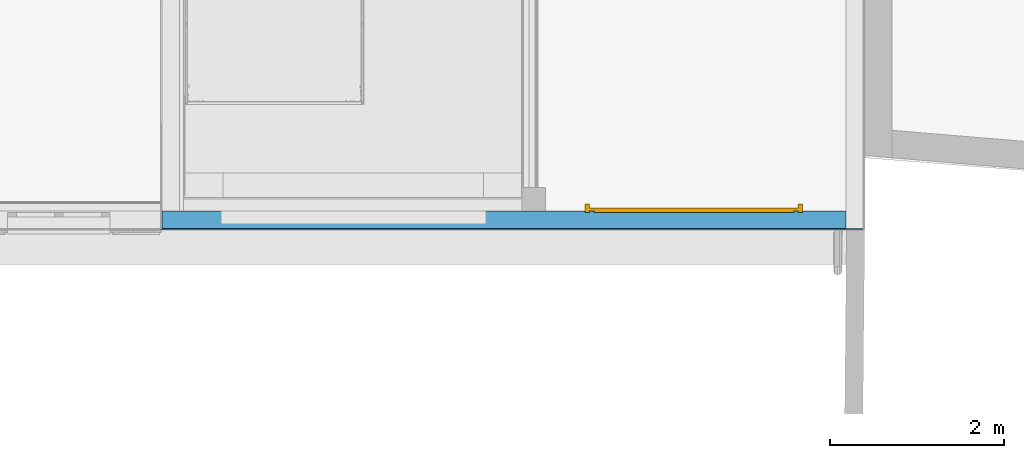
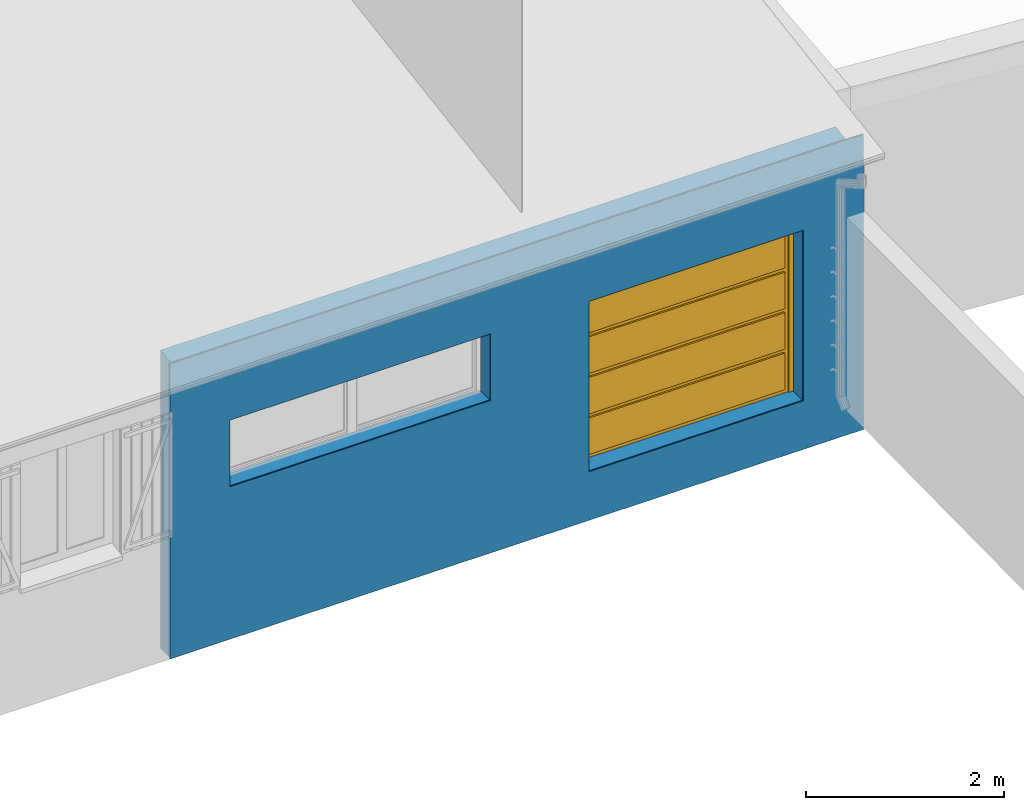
# One storey, part 10 of 24: 2 building element parts, 1 door, 2 openings, 1 element without a shape of its own.
"""IFC2X3 building model written with IfcOpenShell, lengths in metres."""

from ifc_helpers import new_model, entity, si_unit, converted_unit, derived_unit, money_unit, direction, frame, origin_with_axes, origin_2d_with_axis, place, context, subcontext, project, spatial, polyline, rectangle, outline, extrude, boolean, faceted_brep, material, type_object, element, fill, aggregate, save


model = new_model("IFC2X3")

# Units and contexts
model_context = context("Model", 3, precision=1e-05, world=origin_with_axes(), true_north=direction((0.0, 1.0)))
body_context = subcontext(model_context, "Body", "Model", "MODEL_VIEW")
ifc_project = project(units=[si_unit("LENGTHUNIT", "METRE"), si_unit("AREAUNIT", "SQUARE_METRE"), si_unit("VOLUMEUNIT", "CUBIC_METRE"), converted_unit("PLANEANGLEUNIT", "DEGREE", entity("IfcPlaneAngleMeasure", 0.0174532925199), si_unit("PLANEANGLEUNIT", "RADIAN"), dimensions=[0, 0, 0, 0, 0, 0, 0]), si_unit("SOLIDANGLEUNIT", "STERADIAN"), money_unit("CHF"), converted_unit("TIMEUNIT", "Year", entity("IfcTimeMeasure", 31556926.0), si_unit("TIMEUNIT", "SECOND"), dimensions=[0, 0, 1, 0, 0, 0, 0]), si_unit("MASSUNIT", "GRAM", prefix="KILO"), si_unit("THERMODYNAMICTEMPERATUREUNIT", "DEGREE_CELSIUS"), si_unit("LUMINOUSINTENSITYUNIT", "LUMEN"), si_unit("ENERGYUNIT", "JOULE", prefix="MEGA"), derived_unit("THERMALCONDUCTANCEUNIT", [(si_unit("POWERUNIT", "WATT"), 1), (si_unit("LENGTHUNIT", "METRE"), -1), (si_unit("THERMODYNAMICTEMPERATUREUNIT", "KELVIN"), -1)]), derived_unit("SPECIFICHEATCAPACITYUNIT", [(si_unit("ENERGYUNIT", "JOULE"), 1), (si_unit("MASSUNIT", "GRAM", prefix="KILO"), -1), (si_unit("THERMODYNAMICTEMPERATUREUNIT", "KELVIN"), -1)]), derived_unit("MASSDENSITYUNIT", [(si_unit("MASSUNIT", "GRAM", prefix="KILO"), 1), (si_unit("VOLUMEUNIT", "CUBIC_METRE"), -1)])], contexts=[model_context])

# Site, building, storey
site_placement = place(None, origin_with_axes())
site = spatial("IfcSite", under=ifc_project, at=site_placement, Name="Site", CompositionType="ELEMENT")
building_placement = place(site_placement, origin_with_axes())
building = spatial("IfcBuilding", under=site, at=building_placement, Name="Bâtiment", CompositionType="ELEMENT")
storey_placement = place(building_placement, origin_with_axes())
storey = spatial("IfcBuildingStorey", under=building, at=storey_placement, Name="Rez-de-chaussée", CompositionType="ELEMENT", Elevation=0.0)

# Door
door_style = type_object("IfcDoorStyle", Name="Porte garage basculante 24", ConstructionType="NOTDEFINED", OperationType="ROLLINGUP", ParameterTakesPrecedence=False, Sizeable=False)
wall_placement = place(storey_placement, frame((31.2721417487, 7.9529346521, -0.6), z_axis=(0.0, 0.0, 1.0), x_axis=(-1.0, 0.0, 0.0)))
opening_2_placement = place(wall_placement, frame((1.75148819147, 0.0, 0.6), z_axis=(0.0, 0.0, 1.0), x_axis=(1.0, 0.0, 0.0)))
door_placement = place(opening_2_placement, frame((1.25, 0.0, 0.0), z_axis=(0.0, 0.0, 1.0), x_axis=(-1.0, 0.0, 0.0)))
door = element("IfcDoor", 1, at=door_placement, inside=storey, type_object=door_style, Name="PORTE-005", ObjectType="DOOR", OverallHeight=2.1, OverallWidth=2.5, context=body_context, shape_type="Brep", body=[
    faceted_brep([(2.5, 0.085, 0.0), (2.5, -0.015, 0.0), (2.45, -0.015, 0.0), (2.45, 0.085, 0.0), (2.5, 0.085, 2.05), (2.5, -0.015, 2.05), (2.45, -0.015, 2.05), (2.45, 0.085, 2.05)], [[[0, 1, 2, 3]], [[4, 5, 1, 0]], [[1, 5, 6, 2]], [[3, 2, 6, 7]], [[0, 3, 7, 4]], [[7, 6, 5, 4]]]),
    faceted_brep([(0.0, 0.085, 0.0), (0.0, -0.015, 0.0), (0.0, -0.015, 2.05), (0.0, 0.085, 2.05), (0.05, 0.085, 0.0), (0.05, -0.015, 0.0), (0.05, -0.015, 2.05), (0.05, 0.085, 2.05)], [[[0, 1, 2, 3]], [[4, 5, 1, 0]], [[1, 5, 6, 2]], [[3, 2, 6, 7]], [[0, 3, 7, 4]], [[7, 6, 5, 4]]]),
    faceted_brep([(2.5, 0.085, 2.1), (2.5, -0.015, 2.1), (2.5, -0.015, 2.05), (2.5, 0.085, 2.05), (0.0, 0.085, 2.1), (0.0, -0.015, 2.1), (0.0, -0.015, 2.05), (0.05, -0.015, 2.05), (2.45, -0.015, 2.05), (2.45, 0.085, 2.05), (0.05, 0.085, 2.05), (0.0, 0.085, 2.05)], [[[0, 1, 2, 3]], [[4, 5, 1, 0]], [[1, 5, 6, 7, 8, 2]], [[3, 2, 8, 9]], [[0, 3, 9, 10, 11, 4]], [[11, 6, 5, 4]], [[10, 7, 6, 11]], [[9, 8, 7, 10]]]),
    faceted_brep([(2.45, 0.035, 0.0), (2.45, 0.005, 0.0), (0.05, 0.005, 0.0), (0.05, 0.035, 0.0), (2.45, 0.035, 2.05), (2.45, 0.005, 2.05), (0.05, 0.005, 2.05), (0.05, 0.035, 2.05)], [[[0, 1, 2, 3]], [[4, 5, 1, 0]], [[1, 5, 6, 2]], [[3, 2, 6, 7]], [[0, 3, 7, 4]], [[7, 6, 5, 4]]]),
    faceted_brep([(0.1, 0.005, 0.05), (0.1, 0.005, 0.5), (2.4, 0.005, 0.5), (2.4, 0.005, 0.05), (0.1, -0.015, 0.05), (0.1, -0.015, 0.5), (2.4, -0.015, 0.5), (2.4, -0.015, 0.05)], [[[0, 1, 2, 3]], [[0, 4, 5, 1]], [[1, 5, 6, 2]], [[2, 6, 7, 3]], [[3, 7, 4, 0]], [[7, 6, 5, 4]]]),
    faceted_brep([(0.1, 0.005, 0.55), (0.1, 0.005, 1.0), (2.4, 0.005, 1.0), (2.4, 0.005, 0.55), (0.1, -0.015, 0.55), (0.1, -0.015, 1.0), (2.4, -0.015, 1.0), (2.4, -0.015, 0.55)], [[[0, 1, 2, 3]], [[0, 4, 5, 1]], [[1, 5, 6, 2]], [[2, 6, 7, 3]], [[3, 7, 4, 0]], [[7, 6, 5, 4]]]),
    faceted_brep([(0.1, 0.005, 1.05), (0.1, 0.005, 1.5), (2.4, 0.005, 1.5), (2.4, 0.005, 1.05), (0.1, -0.015, 1.05), (0.1, -0.015, 1.5), (2.4, -0.015, 1.5), (2.4, -0.015, 1.05)], [[[0, 1, 2, 3]], [[0, 4, 5, 1]], [[1, 5, 6, 2]], [[2, 6, 7, 3]], [[3, 7, 4, 0]], [[7, 6, 5, 4]]]),
    faceted_brep([(0.1, 0.005, 1.55), (0.1, 0.005, 2.0), (2.4, 0.005, 2.0), (2.4, 0.005, 1.55), (0.1, -0.015, 1.55), (0.1, -0.015, 2.0), (2.4, -0.015, 2.0), (2.4, -0.015, 1.55)], [[[0, 1, 2, 3]], [[0, 4, 5, 1]], [[1, 5, 6, 2]], [[2, 6, 7, 3]], [[3, 7, 4, 0]], [[7, 6, 5, 4]]]),
])

# Wall, openings
wall_type = type_object("IfcWallType", Name="0.0 - Mur ext: revét ext + maçonnerie 215", PredefinedType="ELEMENTEDWALL")
wall = element("IfcWall", 2, at=wall_placement, inside=storey, type_object=wall_type, Name="MUR_EXT-002", ObjectType="ELEMENTEDWALL")
opening_1_placement = place(wall_placement, frame((5.6675, 0.0, 1.88), z_axis=(0.0, 0.0, 1.0), x_axis=(1.0, 0.0, 0.0)))
element("IfcOpeningElement", 3, at=opening_1_placement, cuts=wall, Name="FENETRE-002", context=body_context, shape_type="SweptSolid", body=[
    extrude(rectangle(XDim=3.04, YDim=0.82, at=origin_2d_with_axis()), frame((0.0, -0.215, 0.41), z_axis=(0.0, -1.0, 0.0), x_axis=(1.0, 0.0, 0.0)), (0.0, 0.0, -1.0), 0.645),
])
opening_2 = element("IfcOpeningElement", 4, at=opening_2_placement, cuts=wall, Name="PORTE-005", context=body_context, shape_type="SweptSolid", body=[
    extrude(rectangle(XDim=2.5, YDim=2.1, at=origin_2d_with_axis()), frame((0.0, 0.015, 1.05), z_axis=(0.0, 1.0, 0.0), x_axis=(1.0, 0.0, 0.0)), (0.0, 0.0, 1.0), 0.415),
    extrude(rectangle(XDim=2.5, YDim=2.1, at=origin_2d_with_axis()), frame((0.0, 0.015, 1.05), z_axis=(0.0, -1.0, 0.0), x_axis=(1.0, 0.0, 0.0)), (0.0, 0.0, 1.0), 0.23),
])

fill(opening_2, door)

# Building element part
ifc_material_1 = material(Name="Brique ciment (extérieur)")
building_element_part_1_placement = place(wall_placement, origin_with_axes())
building_element_part_1 = element("IfcBuildingElementPart", 5, at=building_element_part_1_placement, material=ifc_material_1, Name="Brique ciment (extérieur)", context=body_context, shape_type="CSG", body=[
    boolean("DIFFERENCE", boolean("DIFFERENCE", extrude(outline(polyline([(-0.215, 0.0), (7.885, 0.0), (7.885, 0.2), (-0.215, 0.2), (-0.215, 0.0)])), origin_with_axes(), (0.0, 0.0, 1.0), 5.5967588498), faceted_brep([(7.87, 0.0, 3.6743999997), (7.87, 0.0, 0.0), (7.885, 0.0, 0.0), (7.885, 0.0, 5.5967588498), (-0.215, 0.0, 5.5967588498), (-0.215, 0.0, 0.0), (0.0, 0.0, 0.0), (0.0, 0.0, 3.6743999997), (7.87, 0.2, 3.6423999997), (7.87, 0.2, 0.0), (7.885, 0.2, 0.0), (7.885, 0.2, 5.5967588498), (-0.215, 0.2, 5.5967588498), (-0.215, 0.2, 0.0), (0.0, 0.2, 0.0), (0.0, 0.2, 3.6423999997)], [[[0, 1, 2, 3, 4, 5, 6, 7]], [[1, 0, 8, 9]], [[1, 9, 10, 2]], [[3, 2, 10, 11]], [[12, 4, 3, 11]], [[12, 13, 5, 4]], [[14, 6, 5, 13]], [[7, 6, 14, 15]], [[0, 7, 15, 8]], [[15, 14, 13, 12, 11, 10, 9, 8]]])), faceted_brep([(7.88499999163, 0.2, 3.6423999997), (7.885, 0.2, 5.5967588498), (-0.215, 0.2, 5.5967588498), (-0.215, 0.2, 0.0), (-0.2, 0.2, 0.0), (-0.2, 0.2, 3.6423999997), (7.88499999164, 0.215, 3.6399999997), (7.885, 0.215, 5.5967588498), (-0.215, 0.215, 5.5967588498), (-0.215, 0.215, 0.0), (-0.2, 0.215, 0.0), (-0.2, 0.215, 3.6399999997)], [[[0, 1, 2, 3, 4, 5]], [[0, 6, 7, 1]], [[8, 2, 1, 7]], [[8, 9, 3, 2]], [[10, 4, 3, 9]], [[5, 4, 10, 11]], [[5, 11, 6, 0]], [[11, 10, 9, 8, 7, 6]]])),
])

ifc_material_2 = material(Name="Finition ext - Crépis")
building_element_part_2_placement = place(wall_placement, origin_with_axes())
building_element_part_2 = element("IfcBuildingElementPart", 6, at=building_element_part_2_placement, material=ifc_material_2, Name="Finition ext - Crépis", context=body_context, shape_type="CSG", body=[
    boolean("DIFFERENCE", boolean("DIFFERENCE", extrude(outline(polyline([(-0.215, 0.2), (7.885, 0.2), (7.885, 0.215), (-0.215, 0.215), (-0.215, 0.2)])), origin_with_axes(), (0.0, 0.0, 1.0), 5.5967588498), faceted_brep([(7.87, 0.0, 3.6743999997), (7.87, 0.0, 0.0), (7.885, 0.0, 0.0), (7.885, 0.0, 5.5967588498), (-0.215, 0.0, 5.5967588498), (-0.215, 0.0, 0.0), (0.0, 0.0, 0.0), (0.0, 0.0, 3.6743999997), (7.87, 0.2, 3.6423999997), (7.87, 0.2, 0.0), (7.885, 0.2, 0.0), (7.885, 0.2, 5.5967588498), (-0.215, 0.2, 5.5967588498), (-0.215, 0.2, 0.0), (0.0, 0.2, 0.0), (0.0, 0.2, 3.6423999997)], [[[0, 1, 2, 3, 4, 5, 6, 7]], [[1, 0, 8, 9]], [[1, 9, 10, 2]], [[3, 2, 10, 11]], [[12, 4, 3, 11]], [[12, 13, 5, 4]], [[14, 6, 5, 13]], [[7, 6, 14, 15]], [[0, 7, 15, 8]], [[15, 14, 13, 12, 11, 10, 9, 8]]])), faceted_brep([(7.88499999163, 0.2, 3.6423999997), (7.885, 0.2, 5.5967588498), (-0.215, 0.2, 5.5967588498), (-0.215, 0.2, 0.0), (-0.2, 0.2, 0.0), (-0.2, 0.2, 3.6423999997), (7.88499999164, 0.215, 3.6399999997), (7.885, 0.215, 5.5967588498), (-0.215, 0.215, 5.5967588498), (-0.215, 0.215, 0.0), (-0.2, 0.215, 0.0), (-0.2, 0.215, 3.6399999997)], [[[0, 1, 2, 3, 4, 5]], [[0, 6, 7, 1]], [[8, 2, 1, 7]], [[8, 9, 3, 2]], [[10, 4, 3, 9]], [[5, 4, 10, 11]], [[5, 11, 6, 0]], [[11, 10, 9, 8, 7, 6]]])),
])

aggregate(wall, [building_element_part_1, building_element_part_2])

save(model, "model.ifc")
